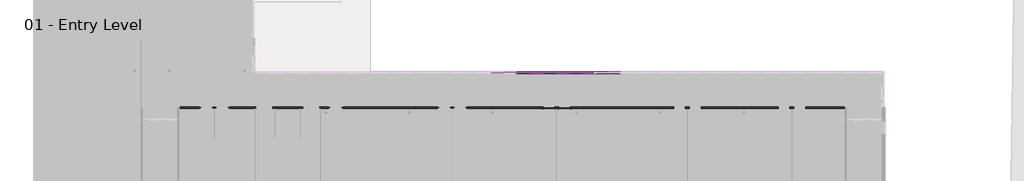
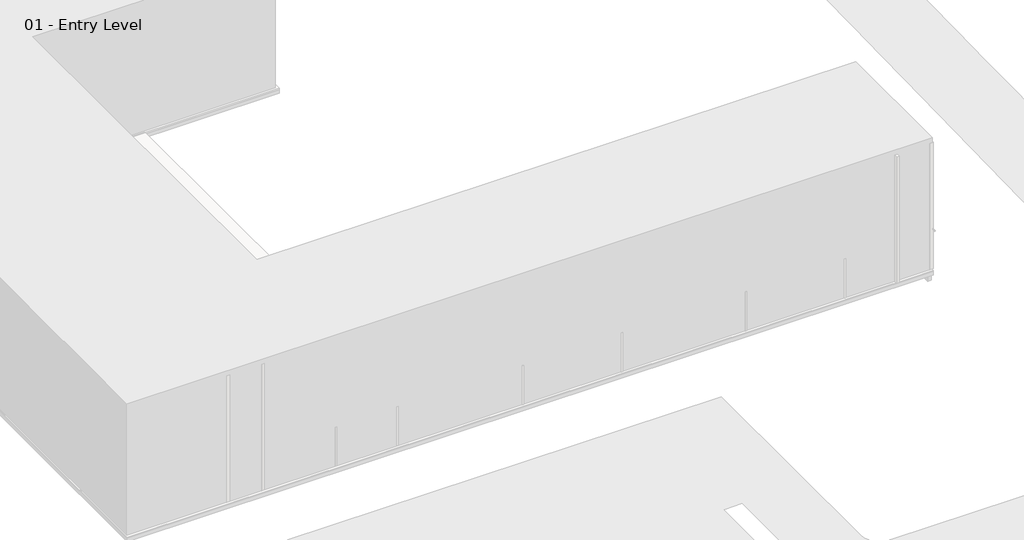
# One storey, part 19 of 35: 72 members, 36 plates, 2 doors, 1 wall.
"""IFC4 building model written with IfcOpenShell, lengths in millimetres."""

from ifc_helpers import new_model, si_unit, origin, place, context, project, spatial, faceted_brep, transform, mapped, element, save
from components import door_305aa2a5, door_e5f9f3c4, member_2b49869a, member_391b434c, member_9e90ae50, system_panel_glazed_1b9d6098, system_panel_glazed_70da479d

model = new_model("IFC4")

# Units and contexts
model_context = context("Model", 3, world=origin())
ifc_project = project(units=[si_unit("LENGTHUNIT", "METRE", prefix="MILLI")], contexts=[model_context])

# Site, building, storey
site = spatial("IfcSite", under=ifc_project)
building = spatial("IfcBuilding", under=site)
storey = spatial("IfcBuildingStorey", under=building, Name="01 - Entry Level", Elevation=0.0)

# Doors
placement = place(None, origin())
door_shape = door_305aa2a5(model_context)
element("IfcDoor", 1, ObjectType="Single-Flush : 36\" x 84\"", at=placement, inside=storey, context=model_context, shape_type="MappedRepresentation", body=[
    mapped(door_shape, transform((40145.6207476, 8277.15, 0.0), x_axis=(1.0, 0.0, 0.0), y_axis=(0.0, 1.0, 0.0), z_axis=(0.0, 0.0, 1.0))),
])
door_2_shape = door_e5f9f3c4(model_context)
element("IfcDoor", 2, ObjectType="Single-Flush : 36\" x 84\"", at=placement, inside=storey, context=model_context, shape_type="MappedRepresentation", body=[
    mapped(door_2_shape, transform((41364.8207476, 8277.15, 0.0), x_axis=(-1.0, 0.0, 0.0), y_axis=(0.0, -1.0, 0.0), z_axis=(0.0, 0.0, 1.0))),
])

# Members
member_shape = member_2b49869a(model_context)
element("IfcMember", 3, ObjectType="Rectangular Mullion : 2.5\" x 5\" rectangular", at=placement, inside=storey, context=model_context, shape_type="MappedRepresentation", body=[
    mapped(member_shape, transform((41720.4207476, 11001.3, 9753.6), x_axis=(-1.0, 0.0, 0.0), y_axis=(0.0, 1.0, 0.0), z_axis=(0.0, 0.0, -1.0))),
])
element("IfcMember", 4, ObjectType="Rectangular Mullion : 2.5\" x 5\" rectangular", at=placement, inside=storey, context=model_context, shape_type="MappedRepresentation", body=[
    mapped(member_shape, transform((39688.4207476, 11001.3, 9753.6), x_axis=(-1.0, 0.0, 0.0), y_axis=(0.0, 1.0, 0.0), z_axis=(0.0, 0.0, -1.0))),
])
element("IfcMember", 5, ObjectType="Rectangular Mullion : 2.5\" x 5\" rectangular", at=placement, inside=storey, context=model_context, shape_type="MappedRepresentation", body=[
    mapped(member_shape, transform((37656.4207476, 11001.3, 9753.6), x_axis=(-1.0, 0.0, 0.0), y_axis=(0.0, 1.0, 0.0), z_axis=(0.0, 0.0, -1.0))),
])
member_2_shape = member_391b434c(model_context)
element("IfcMember", 6, ObjectType="Rectangular Mullion : 2.5\" x 5\" rectangular", at=placement, inside=storey, context=model_context, shape_type="MappedRepresentation", body=[
    mapped(member_2_shape, transform((43784.1707476, 11001.3, 10972.8), x_axis=(0.0, 0.0, 1.0), y_axis=(0.0, 1.0, 0.0), z_axis=(-1.0, 0.0, 0.0))),
])
element("IfcMember", 7, ObjectType="Rectangular Mullion : 2.5\" x 5\" rectangular", at=placement, inside=storey, context=model_context, shape_type="MappedRepresentation", body=[
    mapped(member_2_shape, transform((41752.1707476, 11001.3, 10972.8), x_axis=(0.0, 0.0, 1.0), y_axis=(0.0, 1.0, 0.0), z_axis=(-1.0, 0.0, 0.0))),
])
element("IfcMember", 8, ObjectType="Rectangular Mullion : 2.5\" x 5\" rectangular", at=placement, inside=storey, context=model_context, shape_type="MappedRepresentation", body=[
    mapped(member_2_shape, transform((39720.1707476, 11001.3, 10972.8), x_axis=(0.0, 0.0, 1.0), y_axis=(0.0, 1.0, 0.0), z_axis=(-1.0, 0.0, 0.0))),
])
element("IfcMember", 9, ObjectType="Rectangular Mullion : 2.5\" x 5\" rectangular", at=placement, inside=storey, context=model_context, shape_type="MappedRepresentation", body=[
    mapped(member_2_shape, transform((37688.1707476, 11001.3, 10972.8), x_axis=(0.0, 0.0, 1.0), y_axis=(0.0, 1.0, 0.0), z_axis=(-1.0, 0.0, 0.0))),
])
element("IfcMember", 10, ObjectType="Rectangular Mullion : 2.5\" x 5\" rectangular", at=placement, inside=storey, context=model_context, shape_type="MappedRepresentation", body=[
    mapped(member_2_shape, transform((43720.6707476, 11001.3, 0.0), x_axis=(0.0, 0.0, -1.0), y_axis=(0.0, 1.0, 0.0), z_axis=(1.0, 0.0, 0.0))),
])
element("IfcMember", 11, ObjectType="Rectangular Mullion : 2.5\" x 5\" rectangular", at=placement, inside=storey, context=model_context, shape_type="MappedRepresentation", body=[
    mapped(member_2_shape, transform((41688.6707476, 11001.3, 0.0), x_axis=(0.0, 0.0, -1.0), y_axis=(0.0, 1.0, 0.0), z_axis=(1.0, 0.0, 0.0))),
])
element("IfcMember", 12, ObjectType="Rectangular Mullion : 2.5\" x 5\" rectangular", at=placement, inside=storey, context=model_context, shape_type="MappedRepresentation", body=[
    mapped(member_2_shape, transform((39656.6707476, 11001.3, 0.0), x_axis=(0.0, 0.0, -1.0), y_axis=(0.0, 1.0, 0.0), z_axis=(1.0, 0.0, 0.0))),
])
element("IfcMember", 13, ObjectType="Rectangular Mullion : 2.5\" x 5\" rectangular", at=placement, inside=storey, context=model_context, shape_type="MappedRepresentation", body=[
    mapped(member_2_shape, transform((37624.6707476, 11001.3, 0.0), x_axis=(0.0, 0.0, -1.0), y_axis=(0.0, 1.0, 0.0), z_axis=(1.0, 0.0, 0.0))),
])
member_3_shape = member_9e90ae50(model_context)
element("IfcMember", 14, ObjectType="Rectangular Mullion : 2.5\" x 5\" rectangular", at=placement, inside=storey, context=model_context, shape_type="MappedRepresentation", body=[
    mapped(member_3_shape, transform((43784.1707476, 11001.3, 1219.2), x_axis=(0.0, 0.0, 1.0), y_axis=(0.0, 1.0, 0.0), z_axis=(-1.0, 0.0, 0.0))),
])
element("IfcMember", 15, ObjectType="Rectangular Mullion : 2.5\" x 5\" rectangular", at=placement, inside=storey, context=model_context, shape_type="MappedRepresentation", body=[
    mapped(member_3_shape, transform((41752.1707476, 11001.3, 1219.2), x_axis=(0.0, 0.0, 1.0), y_axis=(0.0, 1.0, 0.0), z_axis=(-1.0, 0.0, 0.0))),
])
element("IfcMember", 16, ObjectType="Rectangular Mullion : 2.5\" x 5\" rectangular", at=placement, inside=storey, context=model_context, shape_type="MappedRepresentation", body=[
    mapped(member_3_shape, transform((39720.1707476, 11001.3, 1219.2), x_axis=(0.0, 0.0, 1.0), y_axis=(0.0, 1.0, 0.0), z_axis=(-1.0, 0.0, 0.0))),
])
element("IfcMember", 17, ObjectType="Rectangular Mullion : 2.5\" x 5\" rectangular", at=placement, inside=storey, context=model_context, shape_type="MappedRepresentation", body=[
    mapped(member_3_shape, transform((37688.1707476, 11001.3, 1219.2), x_axis=(0.0, 0.0, 1.0), y_axis=(0.0, 1.0, 0.0), z_axis=(-1.0, 0.0, 0.0))),
])
element("IfcMember", 18, ObjectType="Rectangular Mullion : 2.5\" x 5\" rectangular", at=placement, inside=storey, context=model_context, shape_type="MappedRepresentation", body=[
    mapped(member_3_shape, transform((43784.1707476, 11001.3, 2438.4), x_axis=(0.0, 0.0, 1.0), y_axis=(0.0, 1.0, 0.0), z_axis=(-1.0, 0.0, 0.0))),
])
element("IfcMember", 19, ObjectType="Rectangular Mullion : 2.5\" x 5\" rectangular", at=placement, inside=storey, context=model_context, shape_type="MappedRepresentation", body=[
    mapped(member_3_shape, transform((41752.1707476, 11001.3, 2438.4), x_axis=(0.0, 0.0, 1.0), y_axis=(0.0, 1.0, 0.0), z_axis=(-1.0, 0.0, 0.0))),
])
element("IfcMember", 20, ObjectType="Rectangular Mullion : 2.5\" x 5\" rectangular", at=placement, inside=storey, context=model_context, shape_type="MappedRepresentation", body=[
    mapped(member_3_shape, transform((39720.1707476, 11001.3, 2438.4), x_axis=(0.0, 0.0, 1.0), y_axis=(0.0, 1.0, 0.0), z_axis=(-1.0, 0.0, 0.0))),
])
element("IfcMember", 21, ObjectType="Rectangular Mullion : 2.5\" x 5\" rectangular", at=placement, inside=storey, context=model_context, shape_type="MappedRepresentation", body=[
    mapped(member_3_shape, transform((37688.1707476, 11001.3, 2438.4), x_axis=(0.0, 0.0, 1.0), y_axis=(0.0, 1.0, 0.0), z_axis=(-1.0, 0.0, 0.0))),
])
element("IfcMember", 22, ObjectType="Rectangular Mullion : 2.5\" x 5\" rectangular", at=placement, inside=storey, context=model_context, shape_type="MappedRepresentation", body=[
    mapped(member_3_shape, transform((43784.1707476, 11001.3, 3657.6), x_axis=(0.0, 0.0, 1.0), y_axis=(0.0, 1.0, 0.0), z_axis=(-1.0, 0.0, 0.0))),
])
element("IfcMember", 23, ObjectType="Rectangular Mullion : 2.5\" x 5\" rectangular", at=placement, inside=storey, context=model_context, shape_type="MappedRepresentation", body=[
    mapped(member_3_shape, transform((41752.1707476, 11001.3, 3657.6), x_axis=(0.0, 0.0, 1.0), y_axis=(0.0, 1.0, 0.0), z_axis=(-1.0, 0.0, 0.0))),
])
element("IfcMember", 24, ObjectType="Rectangular Mullion : 2.5\" x 5\" rectangular", at=placement, inside=storey, context=model_context, shape_type="MappedRepresentation", body=[
    mapped(member_3_shape, transform((39720.1707476, 11001.3, 3657.6), x_axis=(0.0, 0.0, 1.0), y_axis=(0.0, 1.0, 0.0), z_axis=(-1.0, 0.0, 0.0))),
])
element("IfcMember", 25, ObjectType="Rectangular Mullion : 2.5\" x 5\" rectangular", at=placement, inside=storey, context=model_context, shape_type="MappedRepresentation", body=[
    mapped(member_3_shape, transform((37688.1707476, 11001.3, 3657.6), x_axis=(0.0, 0.0, 1.0), y_axis=(0.0, 1.0, 0.0), z_axis=(-1.0, 0.0, 0.0))),
])
element("IfcMember", 26, ObjectType="Rectangular Mullion : 2.5\" x 5\" rectangular", at=placement, inside=storey, context=model_context, shape_type="MappedRepresentation", body=[
    mapped(member_3_shape, transform((43784.1707476, 11001.3, 4876.8), x_axis=(0.0, 0.0, 1.0), y_axis=(0.0, 1.0, 0.0), z_axis=(-1.0, 0.0, 0.0))),
])
element("IfcMember", 27, ObjectType="Rectangular Mullion : 2.5\" x 5\" rectangular", at=placement, inside=storey, context=model_context, shape_type="MappedRepresentation", body=[
    mapped(member_3_shape, transform((41752.1707476, 11001.3, 4876.8), x_axis=(0.0, 0.0, 1.0), y_axis=(0.0, 1.0, 0.0), z_axis=(-1.0, 0.0, 0.0))),
])
element("IfcMember", 28, ObjectType="Rectangular Mullion : 2.5\" x 5\" rectangular", at=placement, inside=storey, context=model_context, shape_type="MappedRepresentation", body=[
    mapped(member_3_shape, transform((39720.1707476, 11001.3, 4876.8), x_axis=(0.0, 0.0, 1.0), y_axis=(0.0, 1.0, 0.0), z_axis=(-1.0, 0.0, 0.0))),
])
element("IfcMember", 29, ObjectType="Rectangular Mullion : 2.5\" x 5\" rectangular", at=placement, inside=storey, context=model_context, shape_type="MappedRepresentation", body=[
    mapped(member_3_shape, transform((37688.1707476, 11001.3, 4876.8), x_axis=(0.0, 0.0, 1.0), y_axis=(0.0, 1.0, 0.0), z_axis=(-1.0, 0.0, 0.0))),
])
element("IfcMember", 30, ObjectType="Rectangular Mullion : 2.5\" x 5\" rectangular", at=placement, inside=storey, context=model_context, shape_type="MappedRepresentation", body=[
    mapped(member_3_shape, transform((43784.1707476, 11001.3, 6096.0), x_axis=(0.0, 0.0, 1.0), y_axis=(0.0, 1.0, 0.0), z_axis=(-1.0, 0.0, 0.0))),
])
element("IfcMember", 31, ObjectType="Rectangular Mullion : 2.5\" x 5\" rectangular", at=placement, inside=storey, context=model_context, shape_type="MappedRepresentation", body=[
    mapped(member_3_shape, transform((41752.1707476, 11001.3, 6096.0), x_axis=(0.0, 0.0, 1.0), y_axis=(0.0, 1.0, 0.0), z_axis=(-1.0, 0.0, 0.0))),
])
element("IfcMember", 32, ObjectType="Rectangular Mullion : 2.5\" x 5\" rectangular", at=placement, inside=storey, context=model_context, shape_type="MappedRepresentation", body=[
    mapped(member_3_shape, transform((39720.1707476, 11001.3, 6096.0), x_axis=(0.0, 0.0, 1.0), y_axis=(0.0, 1.0, 0.0), z_axis=(-1.0, 0.0, 0.0))),
])
element("IfcMember", 33, ObjectType="Rectangular Mullion : 2.5\" x 5\" rectangular", at=placement, inside=storey, context=model_context, shape_type="MappedRepresentation", body=[
    mapped(member_3_shape, transform((37688.1707476, 11001.3, 6096.0), x_axis=(0.0, 0.0, 1.0), y_axis=(0.0, 1.0, 0.0), z_axis=(-1.0, 0.0, 0.0))),
])
element("IfcMember", 34, ObjectType="Rectangular Mullion : 2.5\" x 5\" rectangular", at=placement, inside=storey, context=model_context, shape_type="MappedRepresentation", body=[
    mapped(member_3_shape, transform((43784.1707476, 11001.3, 7315.2), x_axis=(0.0, 0.0, 1.0), y_axis=(0.0, 1.0, 0.0), z_axis=(-1.0, 0.0, 0.0))),
])
element("IfcMember", 35, ObjectType="Rectangular Mullion : 2.5\" x 5\" rectangular", at=placement, inside=storey, context=model_context, shape_type="MappedRepresentation", body=[
    mapped(member_3_shape, transform((41752.1707476, 11001.3, 7315.2), x_axis=(0.0, 0.0, 1.0), y_axis=(0.0, 1.0, 0.0), z_axis=(-1.0, 0.0, 0.0))),
])
element("IfcMember", 36, ObjectType="Rectangular Mullion : 2.5\" x 5\" rectangular", at=placement, inside=storey, context=model_context, shape_type="MappedRepresentation", body=[
    mapped(member_3_shape, transform((39720.1707476, 11001.3, 7315.2), x_axis=(0.0, 0.0, 1.0), y_axis=(0.0, 1.0, 0.0), z_axis=(-1.0, 0.0, 0.0))),
])
element("IfcMember", 37, ObjectType="Rectangular Mullion : 2.5\" x 5\" rectangular", at=placement, inside=storey, context=model_context, shape_type="MappedRepresentation", body=[
    mapped(member_3_shape, transform((37688.1707476, 11001.3, 7315.2), x_axis=(0.0, 0.0, 1.0), y_axis=(0.0, 1.0, 0.0), z_axis=(-1.0, 0.0, 0.0))),
])
element("IfcMember", 38, ObjectType="Rectangular Mullion : 2.5\" x 5\" rectangular", at=placement, inside=storey, context=model_context, shape_type="MappedRepresentation", body=[
    mapped(member_3_shape, transform((43784.1707476, 11001.3, 8534.4), x_axis=(0.0, 0.0, 1.0), y_axis=(0.0, 1.0, 0.0), z_axis=(-1.0, 0.0, 0.0))),
])
element("IfcMember", 39, ObjectType="Rectangular Mullion : 2.5\" x 5\" rectangular", at=placement, inside=storey, context=model_context, shape_type="MappedRepresentation", body=[
    mapped(member_3_shape, transform((41752.1707476, 11001.3, 8534.4), x_axis=(0.0, 0.0, 1.0), y_axis=(0.0, 1.0, 0.0), z_axis=(-1.0, 0.0, 0.0))),
])
element("IfcMember", 40, ObjectType="Rectangular Mullion : 2.5\" x 5\" rectangular", at=placement, inside=storey, context=model_context, shape_type="MappedRepresentation", body=[
    mapped(member_3_shape, transform((39720.1707476, 11001.3, 8534.4), x_axis=(0.0, 0.0, 1.0), y_axis=(0.0, 1.0, 0.0), z_axis=(-1.0, 0.0, 0.0))),
])
element("IfcMember", 41, ObjectType="Rectangular Mullion : 2.5\" x 5\" rectangular", at=placement, inside=storey, context=model_context, shape_type="MappedRepresentation", body=[
    mapped(member_3_shape, transform((37688.1707476, 11001.3, 8534.4), x_axis=(0.0, 0.0, 1.0), y_axis=(0.0, 1.0, 0.0), z_axis=(-1.0, 0.0, 0.0))),
])
element("IfcMember", 42, ObjectType="Rectangular Mullion : 2.5\" x 5\" rectangular", at=placement, inside=storey, context=model_context, shape_type="MappedRepresentation", body=[
    mapped(member_3_shape, transform((43784.1707476, 11001.3, 9753.6), x_axis=(0.0, 0.0, 1.0), y_axis=(0.0, 1.0, 0.0), z_axis=(-1.0, 0.0, 0.0))),
])
element("IfcMember", 43, ObjectType="Rectangular Mullion : 2.5\" x 5\" rectangular", at=placement, inside=storey, context=model_context, shape_type="MappedRepresentation", body=[
    mapped(member_3_shape, transform((41752.1707476, 11001.3, 9753.6), x_axis=(0.0, 0.0, 1.0), y_axis=(0.0, 1.0, 0.0), z_axis=(-1.0, 0.0, 0.0))),
])
element("IfcMember", 44, ObjectType="Rectangular Mullion : 2.5\" x 5\" rectangular", at=placement, inside=storey, context=model_context, shape_type="MappedRepresentation", body=[
    mapped(member_3_shape, transform((39720.1707476, 11001.3, 9753.6), x_axis=(0.0, 0.0, 1.0), y_axis=(0.0, 1.0, 0.0), z_axis=(-1.0, 0.0, 0.0))),
])
element("IfcMember", 45, ObjectType="Rectangular Mullion : 2.5\" x 5\" rectangular", at=placement, inside=storey, context=model_context, shape_type="MappedRepresentation", body=[
    mapped(member_3_shape, transform((37688.1707476, 11001.3, 9753.6), x_axis=(0.0, 0.0, 1.0), y_axis=(0.0, 1.0, 0.0), z_axis=(-1.0, 0.0, 0.0))),
])
element("IfcMember", 46, ObjectType="Rectangular Mullion : 2.5\" x 5\" rectangular", at=placement, inside=storey, context=model_context, shape_type="MappedRepresentation", body=[
    mapped(member_shape, transform((43752.4207476, 11001.3, 0.0), x_axis=(-1.0, 0.0, 0.0), y_axis=(0.0, 1.0, 0.0), z_axis=(0.0, 0.0, -1.0))),
])
element("IfcMember", 47, ObjectType="Rectangular Mullion : 2.5\" x 5\" rectangular", at=placement, inside=storey, context=model_context, shape_type="MappedRepresentation", body=[
    mapped(member_shape, transform((41720.4207476, 11001.3, 0.0), x_axis=(-1.0, 0.0, 0.0), y_axis=(0.0, 1.0, 0.0), z_axis=(0.0, 0.0, -1.0))),
])
element("IfcMember", 48, ObjectType="Rectangular Mullion : 2.5\" x 5\" rectangular", at=placement, inside=storey, context=model_context, shape_type="MappedRepresentation", body=[
    mapped(member_shape, transform((39688.4207476, 11001.3, 0.0), x_axis=(-1.0, 0.0, 0.0), y_axis=(0.0, 1.0, 0.0), z_axis=(0.0, 0.0, -1.0))),
])
element("IfcMember", 49, ObjectType="Rectangular Mullion : 2.5\" x 5\" rectangular", at=placement, inside=storey, context=model_context, shape_type="MappedRepresentation", body=[
    mapped(member_shape, transform((37656.4207476, 11001.3, 0.0), x_axis=(-1.0, 0.0, 0.0), y_axis=(0.0, 1.0, 0.0), z_axis=(0.0, 0.0, -1.0))),
])
element("IfcMember", 50, ObjectType="Rectangular Mullion : 2.5\" x 5\" rectangular", at=placement, inside=storey, context=model_context, shape_type="MappedRepresentation", body=[
    mapped(member_shape, transform((43752.4207476, 11001.3, 1219.2), x_axis=(-1.0, 0.0, 0.0), y_axis=(0.0, 1.0, 0.0), z_axis=(0.0, 0.0, -1.0))),
])
element("IfcMember", 51, ObjectType="Rectangular Mullion : 2.5\" x 5\" rectangular", at=placement, inside=storey, context=model_context, shape_type="MappedRepresentation", body=[
    mapped(member_shape, transform((41720.4207476, 11001.3, 1219.2), x_axis=(-1.0, 0.0, 0.0), y_axis=(0.0, 1.0, 0.0), z_axis=(0.0, 0.0, -1.0))),
])
element("IfcMember", 52, ObjectType="Rectangular Mullion : 2.5\" x 5\" rectangular", at=placement, inside=storey, context=model_context, shape_type="MappedRepresentation", body=[
    mapped(member_shape, transform((39688.4207476, 11001.3, 1219.2), x_axis=(-1.0, 0.0, 0.0), y_axis=(0.0, 1.0, 0.0), z_axis=(0.0, 0.0, -1.0))),
])
element("IfcMember", 53, ObjectType="Rectangular Mullion : 2.5\" x 5\" rectangular", at=placement, inside=storey, context=model_context, shape_type="MappedRepresentation", body=[
    mapped(member_shape, transform((37656.4207476, 11001.3, 1219.2), x_axis=(-1.0, 0.0, 0.0), y_axis=(0.0, 1.0, 0.0), z_axis=(0.0, 0.0, -1.0))),
])
element("IfcMember", 54, ObjectType="Rectangular Mullion : 2.5\" x 5\" rectangular", at=placement, inside=storey, context=model_context, shape_type="MappedRepresentation", body=[
    mapped(member_shape, transform((43752.4207476, 11001.3, 2438.4), x_axis=(-1.0, 0.0, 0.0), y_axis=(0.0, 1.0, 0.0), z_axis=(0.0, 0.0, -1.0))),
])
element("IfcMember", 55, ObjectType="Rectangular Mullion : 2.5\" x 5\" rectangular", at=placement, inside=storey, context=model_context, shape_type="MappedRepresentation", body=[
    mapped(member_shape, transform((41720.4207476, 11001.3, 2438.4), x_axis=(-1.0, 0.0, 0.0), y_axis=(0.0, 1.0, 0.0), z_axis=(0.0, 0.0, -1.0))),
])
element("IfcMember", 56, ObjectType="Rectangular Mullion : 2.5\" x 5\" rectangular", at=placement, inside=storey, context=model_context, shape_type="MappedRepresentation", body=[
    mapped(member_shape, transform((39688.4207476, 11001.3, 2438.4), x_axis=(-1.0, 0.0, 0.0), y_axis=(0.0, 1.0, 0.0), z_axis=(0.0, 0.0, -1.0))),
])
element("IfcMember", 57, ObjectType="Rectangular Mullion : 2.5\" x 5\" rectangular", at=placement, inside=storey, context=model_context, shape_type="MappedRepresentation", body=[
    mapped(member_shape, transform((37656.4207476, 11001.3, 2438.4), x_axis=(-1.0, 0.0, 0.0), y_axis=(0.0, 1.0, 0.0), z_axis=(0.0, 0.0, -1.0))),
])
element("IfcMember", 58, ObjectType="Rectangular Mullion : 2.5\" x 5\" rectangular", at=placement, inside=storey, context=model_context, shape_type="MappedRepresentation", body=[
    mapped(member_shape, transform((43752.4207476, 11001.3, 3657.6), x_axis=(-1.0, 0.0, 0.0), y_axis=(0.0, 1.0, 0.0), z_axis=(0.0, 0.0, -1.0))),
])
element("IfcMember", 59, ObjectType="Rectangular Mullion : 2.5\" x 5\" rectangular", at=placement, inside=storey, context=model_context, shape_type="MappedRepresentation", body=[
    mapped(member_shape, transform((41720.4207476, 11001.3, 3657.6), x_axis=(-1.0, 0.0, 0.0), y_axis=(0.0, 1.0, 0.0), z_axis=(0.0, 0.0, -1.0))),
])
element("IfcMember", 60, ObjectType="Rectangular Mullion : 2.5\" x 5\" rectangular", at=placement, inside=storey, context=model_context, shape_type="MappedRepresentation", body=[
    mapped(member_shape, transform((39688.4207476, 11001.3, 3657.6), x_axis=(-1.0, 0.0, 0.0), y_axis=(0.0, 1.0, 0.0), z_axis=(0.0, 0.0, -1.0))),
])
element("IfcMember", 61, ObjectType="Rectangular Mullion : 2.5\" x 5\" rectangular", at=placement, inside=storey, context=model_context, shape_type="MappedRepresentation", body=[
    mapped(member_shape, transform((37656.4207476, 11001.3, 3657.6), x_axis=(-1.0, 0.0, 0.0), y_axis=(0.0, 1.0, 0.0), z_axis=(0.0, 0.0, -1.0))),
])
element("IfcMember", 62, ObjectType="Rectangular Mullion : 2.5\" x 5\" rectangular", at=placement, inside=storey, context=model_context, shape_type="MappedRepresentation", body=[
    mapped(member_shape, transform((43752.4207476, 11001.3, 4876.8), x_axis=(-1.0, 0.0, 0.0), y_axis=(0.0, 1.0, 0.0), z_axis=(0.0, 0.0, -1.0))),
])
element("IfcMember", 63, ObjectType="Rectangular Mullion : 2.5\" x 5\" rectangular", at=placement, inside=storey, context=model_context, shape_type="MappedRepresentation", body=[
    mapped(member_shape, transform((41720.4207476, 11001.3, 4876.8), x_axis=(-1.0, 0.0, 0.0), y_axis=(0.0, 1.0, 0.0), z_axis=(0.0, 0.0, -1.0))),
])
element("IfcMember", 64, ObjectType="Rectangular Mullion : 2.5\" x 5\" rectangular", at=placement, inside=storey, context=model_context, shape_type="MappedRepresentation", body=[
    mapped(member_shape, transform((39688.4207476, 11001.3, 4876.8), x_axis=(-1.0, 0.0, 0.0), y_axis=(0.0, 1.0, 0.0), z_axis=(0.0, 0.0, -1.0))),
])
element("IfcMember", 65, ObjectType="Rectangular Mullion : 2.5\" x 5\" rectangular", at=placement, inside=storey, context=model_context, shape_type="MappedRepresentation", body=[
    mapped(member_shape, transform((37656.4207476, 11001.3, 4876.8), x_axis=(-1.0, 0.0, 0.0), y_axis=(0.0, 1.0, 0.0), z_axis=(0.0, 0.0, -1.0))),
])
element("IfcMember", 66, ObjectType="Rectangular Mullion : 2.5\" x 5\" rectangular", at=placement, inside=storey, context=model_context, shape_type="MappedRepresentation", body=[
    mapped(member_shape, transform((41720.4207476, 11001.3, 6096.0), x_axis=(-1.0, 0.0, 0.0), y_axis=(0.0, 1.0, 0.0), z_axis=(0.0, 0.0, -1.0))),
])
element("IfcMember", 67, ObjectType="Rectangular Mullion : 2.5\" x 5\" rectangular", at=placement, inside=storey, context=model_context, shape_type="MappedRepresentation", body=[
    mapped(member_shape, transform((39688.4207476, 11001.3, 6096.0), x_axis=(-1.0, 0.0, 0.0), y_axis=(0.0, 1.0, 0.0), z_axis=(0.0, 0.0, -1.0))),
])
element("IfcMember", 68, ObjectType="Rectangular Mullion : 2.5\" x 5\" rectangular", at=placement, inside=storey, context=model_context, shape_type="MappedRepresentation", body=[
    mapped(member_shape, transform((37656.4207476, 11001.3, 6096.0), x_axis=(-1.0, 0.0, 0.0), y_axis=(0.0, 1.0, 0.0), z_axis=(0.0, 0.0, -1.0))),
])
element("IfcMember", 69, ObjectType="Rectangular Mullion : 2.5\" x 5\" rectangular", at=placement, inside=storey, context=model_context, shape_type="MappedRepresentation", body=[
    mapped(member_shape, transform((41720.4207476, 11001.3, 7315.2), x_axis=(-1.0, 0.0, 0.0), y_axis=(0.0, 1.0, 0.0), z_axis=(0.0, 0.0, -1.0))),
])
element("IfcMember", 70, ObjectType="Rectangular Mullion : 2.5\" x 5\" rectangular", at=placement, inside=storey, context=model_context, shape_type="MappedRepresentation", body=[
    mapped(member_shape, transform((39688.4207476, 11001.3, 7315.2), x_axis=(-1.0, 0.0, 0.0), y_axis=(0.0, 1.0, 0.0), z_axis=(0.0, 0.0, -1.0))),
])
element("IfcMember", 71, ObjectType="Rectangular Mullion : 2.5\" x 5\" rectangular", at=placement, inside=storey, context=model_context, shape_type="MappedRepresentation", body=[
    mapped(member_shape, transform((37656.4207476, 11001.3, 7315.2), x_axis=(-1.0, 0.0, 0.0), y_axis=(0.0, 1.0, 0.0), z_axis=(0.0, 0.0, -1.0))),
])
element("IfcMember", 72, ObjectType="Rectangular Mullion : 2.5\" x 5\" rectangular", at=placement, inside=storey, context=model_context, shape_type="MappedRepresentation", body=[
    mapped(member_shape, transform((41720.4207476, 11001.3, 8534.4), x_axis=(-1.0, 0.0, 0.0), y_axis=(0.0, 1.0, 0.0), z_axis=(0.0, 0.0, -1.0))),
])
element("IfcMember", 73, ObjectType="Rectangular Mullion : 2.5\" x 5\" rectangular", at=placement, inside=storey, context=model_context, shape_type="MappedRepresentation", body=[
    mapped(member_shape, transform((39688.4207476, 11001.3, 8534.4), x_axis=(-1.0, 0.0, 0.0), y_axis=(0.0, 1.0, 0.0), z_axis=(0.0, 0.0, -1.0))),
])
element("IfcMember", 74, ObjectType="Rectangular Mullion : 2.5\" x 5\" rectangular", at=placement, inside=storey, context=model_context, shape_type="MappedRepresentation", body=[
    mapped(member_shape, transform((37656.4207476, 11001.3, 8534.4), x_axis=(-1.0, 0.0, 0.0), y_axis=(0.0, 1.0, 0.0), z_axis=(0.0, 0.0, -1.0))),
])

# Plates
system_panel_glazed_shape = system_panel_glazed_1b9d6098(model_context)
element("IfcPlate", 75, ObjectType="System Panel : Glazed", at=placement, inside=storey, context=model_context, shape_type="MappedRepresentation", body=[
    mapped(system_panel_glazed_shape, transform((42736.4207476, 11001.3, 63.5), x_axis=(-1.0, 0.0, 0.0), y_axis=(0.0, -1.0, 0.0), z_axis=(0.0, 0.0, 1.0))),
])
element("IfcPlate", 76, ObjectType="System Panel : Glazed", at=placement, inside=storey, context=model_context, shape_type="MappedRepresentation", body=[
    mapped(system_panel_glazed_shape, transform((40704.4207476, 11001.3, 63.5), x_axis=(-1.0, 0.0, 0.0), y_axis=(0.0, -1.0, 0.0), z_axis=(0.0, 0.0, 1.0))),
])
element("IfcPlate", 77, ObjectType="System Panel : Glazed", at=placement, inside=storey, context=model_context, shape_type="MappedRepresentation", body=[
    mapped(system_panel_glazed_shape, transform((38672.4207476, 11001.3, 63.5), x_axis=(-1.0, 0.0, 0.0), y_axis=(0.0, -1.0, 0.0), z_axis=(0.0, 0.0, 1.0))),
])
element("IfcPlate", 78, ObjectType="System Panel : Glazed", at=placement, inside=storey, context=model_context, shape_type="MappedRepresentation", body=[
    mapped(system_panel_glazed_shape, transform((36640.4207476, 11001.3, 63.5), x_axis=(-1.0, 0.0, 0.0), y_axis=(0.0, -1.0, 0.0), z_axis=(0.0, 0.0, 1.0))),
])
element("IfcPlate", 79, ObjectType="System Panel : Glazed", at=placement, inside=storey, context=model_context, shape_type="MappedRepresentation", body=[
    mapped(system_panel_glazed_shape, transform((42736.4207476, 11001.3, 9785.35), x_axis=(-1.0, 0.0, 0.0), y_axis=(0.0, -1.0, 0.0), z_axis=(0.0, 0.0, 1.0))),
])
element("IfcPlate", 80, ObjectType="System Panel : Glazed", at=placement, inside=storey, context=model_context, shape_type="MappedRepresentation", body=[
    mapped(system_panel_glazed_shape, transform((40704.4207476, 11001.3, 9785.35), x_axis=(-1.0, 0.0, 0.0), y_axis=(0.0, -1.0, 0.0), z_axis=(0.0, 0.0, 1.0))),
])
element("IfcPlate", 81, ObjectType="System Panel : Glazed", at=placement, inside=storey, context=model_context, shape_type="MappedRepresentation", body=[
    mapped(system_panel_glazed_shape, transform((38672.4207476, 11001.3, 9785.35), x_axis=(-1.0, 0.0, 0.0), y_axis=(0.0, -1.0, 0.0), z_axis=(0.0, 0.0, 1.0))),
])
element("IfcPlate", 82, ObjectType="System Panel : Glazed", at=placement, inside=storey, context=model_context, shape_type="MappedRepresentation", body=[
    mapped(system_panel_glazed_shape, transform((36640.4207476, 11001.3, 9785.35), x_axis=(-1.0, 0.0, 0.0), y_axis=(0.0, -1.0, 0.0), z_axis=(0.0, 0.0, 1.0))),
])
system_panel_glazed_2_shape = system_panel_glazed_70da479d(model_context)
element("IfcPlate", 83, ObjectType="System Panel : Glazed", at=placement, inside=storey, context=model_context, shape_type="MappedRepresentation", body=[
    mapped(system_panel_glazed_2_shape, transform((42736.4207476, 11001.3, 1250.95), x_axis=(-1.0, 0.0, 0.0), y_axis=(0.0, -1.0, 0.0), z_axis=(0.0, 0.0, 1.0))),
])
element("IfcPlate", 84, ObjectType="System Panel : Glazed", at=placement, inside=storey, context=model_context, shape_type="MappedRepresentation", body=[
    mapped(system_panel_glazed_2_shape, transform((40704.4207476, 11001.3, 1250.95), x_axis=(-1.0, 0.0, 0.0), y_axis=(0.0, -1.0, 0.0), z_axis=(0.0, 0.0, 1.0))),
])
element("IfcPlate", 85, ObjectType="System Panel : Glazed", at=placement, inside=storey, context=model_context, shape_type="MappedRepresentation", body=[
    mapped(system_panel_glazed_2_shape, transform((38672.4207476, 11001.3, 1250.95), x_axis=(-1.0, 0.0, 0.0), y_axis=(0.0, -1.0, 0.0), z_axis=(0.0, 0.0, 1.0))),
])
element("IfcPlate", 86, ObjectType="System Panel : Glazed", at=placement, inside=storey, context=model_context, shape_type="MappedRepresentation", body=[
    mapped(system_panel_glazed_2_shape, transform((36640.4207476, 11001.3, 1250.95), x_axis=(-1.0, 0.0, 0.0), y_axis=(0.0, -1.0, 0.0), z_axis=(0.0, 0.0, 1.0))),
])
element("IfcPlate", 87, ObjectType="System Panel : Glazed", at=placement, inside=storey, context=model_context, shape_type="MappedRepresentation", body=[
    mapped(system_panel_glazed_2_shape, transform((42736.4207476, 11001.3, 2470.15), x_axis=(-1.0, 0.0, 0.0), y_axis=(0.0, -1.0, 0.0), z_axis=(0.0, 0.0, 1.0))),
])
element("IfcPlate", 88, ObjectType="System Panel : Glazed", at=placement, inside=storey, context=model_context, shape_type="MappedRepresentation", body=[
    mapped(system_panel_glazed_2_shape, transform((40704.4207476, 11001.3, 2470.15), x_axis=(-1.0, 0.0, 0.0), y_axis=(0.0, -1.0, 0.0), z_axis=(0.0, 0.0, 1.0))),
])
element("IfcPlate", 89, ObjectType="System Panel : Glazed", at=placement, inside=storey, context=model_context, shape_type="MappedRepresentation", body=[
    mapped(system_panel_glazed_2_shape, transform((38672.4207476, 11001.3, 2470.15), x_axis=(-1.0, 0.0, 0.0), y_axis=(0.0, -1.0, 0.0), z_axis=(0.0, 0.0, 1.0))),
])
element("IfcPlate", 90, ObjectType="System Panel : Glazed", at=placement, inside=storey, context=model_context, shape_type="MappedRepresentation", body=[
    mapped(system_panel_glazed_2_shape, transform((36640.4207476, 11001.3, 2470.15), x_axis=(-1.0, 0.0, 0.0), y_axis=(0.0, -1.0, 0.0), z_axis=(0.0, 0.0, 1.0))),
])
element("IfcPlate", 91, ObjectType="System Panel : Glazed", at=placement, inside=storey, context=model_context, shape_type="MappedRepresentation", body=[
    mapped(system_panel_glazed_2_shape, transform((42736.4207476, 11001.3, 3689.35), x_axis=(-1.0, 0.0, 0.0), y_axis=(0.0, -1.0, 0.0), z_axis=(0.0, 0.0, 1.0))),
])
element("IfcPlate", 92, ObjectType="System Panel : Glazed", at=placement, inside=storey, context=model_context, shape_type="MappedRepresentation", body=[
    mapped(system_panel_glazed_2_shape, transform((40704.4207476, 11001.3, 3689.35), x_axis=(-1.0, 0.0, 0.0), y_axis=(0.0, -1.0, 0.0), z_axis=(0.0, 0.0, 1.0))),
])
element("IfcPlate", 93, ObjectType="System Panel : Glazed", at=placement, inside=storey, context=model_context, shape_type="MappedRepresentation", body=[
    mapped(system_panel_glazed_2_shape, transform((38672.4207476, 11001.3, 3689.35), x_axis=(-1.0, 0.0, 0.0), y_axis=(0.0, -1.0, 0.0), z_axis=(0.0, 0.0, 1.0))),
])
element("IfcPlate", 94, ObjectType="System Panel : Glazed", at=placement, inside=storey, context=model_context, shape_type="MappedRepresentation", body=[
    mapped(system_panel_glazed_2_shape, transform((36640.4207476, 11001.3, 3689.35), x_axis=(-1.0, 0.0, 0.0), y_axis=(0.0, -1.0, 0.0), z_axis=(0.0, 0.0, 1.0))),
])
element("IfcPlate", 95, ObjectType="System Panel : Glazed", at=placement, inside=storey, context=model_context, shape_type="MappedRepresentation", body=[
    mapped(system_panel_glazed_2_shape, transform((42736.4207476, 11001.3, 4908.55), x_axis=(-1.0, 0.0, 0.0), y_axis=(0.0, -1.0, 0.0), z_axis=(0.0, 0.0, 1.0))),
])
element("IfcPlate", 96, ObjectType="System Panel : Glazed", at=placement, inside=storey, context=model_context, shape_type="MappedRepresentation", body=[
    mapped(system_panel_glazed_2_shape, transform((40704.4207476, 11001.3, 4908.55), x_axis=(-1.0, 0.0, 0.0), y_axis=(0.0, -1.0, 0.0), z_axis=(0.0, 0.0, 1.0))),
])
element("IfcPlate", 97, ObjectType="System Panel : Glazed", at=placement, inside=storey, context=model_context, shape_type="MappedRepresentation", body=[
    mapped(system_panel_glazed_2_shape, transform((38672.4207476, 11001.3, 4908.55), x_axis=(-1.0, 0.0, 0.0), y_axis=(0.0, -1.0, 0.0), z_axis=(0.0, 0.0, 1.0))),
])
element("IfcPlate", 98, ObjectType="System Panel : Glazed", at=placement, inside=storey, context=model_context, shape_type="MappedRepresentation", body=[
    mapped(system_panel_glazed_2_shape, transform((36640.4207476, 11001.3, 4908.55), x_axis=(-1.0, 0.0, 0.0), y_axis=(0.0, -1.0, 0.0), z_axis=(0.0, 0.0, 1.0))),
])
element("IfcPlate", 99, ObjectType="System Panel : Glazed", at=placement, inside=storey, context=model_context, shape_type="MappedRepresentation", body=[
    mapped(system_panel_glazed_2_shape, transform((42736.4207476, 11001.3, 6127.75), x_axis=(-1.0, 0.0, 0.0), y_axis=(0.0, -1.0, 0.0), z_axis=(0.0, 0.0, 1.0))),
])
element("IfcPlate", 100, ObjectType="System Panel : Glazed", at=placement, inside=storey, context=model_context, shape_type="MappedRepresentation", body=[
    mapped(system_panel_glazed_2_shape, transform((40704.4207476, 11001.3, 6127.75), x_axis=(-1.0, 0.0, 0.0), y_axis=(0.0, -1.0, 0.0), z_axis=(0.0, 0.0, 1.0))),
])
element("IfcPlate", 101, ObjectType="System Panel : Glazed", at=placement, inside=storey, context=model_context, shape_type="MappedRepresentation", body=[
    mapped(system_panel_glazed_2_shape, transform((38672.4207476, 11001.3, 6127.75), x_axis=(-1.0, 0.0, 0.0), y_axis=(0.0, -1.0, 0.0), z_axis=(0.0, 0.0, 1.0))),
])
element("IfcPlate", 102, ObjectType="System Panel : Glazed", at=placement, inside=storey, context=model_context, shape_type="MappedRepresentation", body=[
    mapped(system_panel_glazed_2_shape, transform((36640.4207476, 11001.3, 6127.75), x_axis=(-1.0, 0.0, 0.0), y_axis=(0.0, -1.0, 0.0), z_axis=(0.0, 0.0, 1.0))),
])
element("IfcPlate", 103, ObjectType="System Panel : Glazed", at=placement, inside=storey, context=model_context, shape_type="MappedRepresentation", body=[
    mapped(system_panel_glazed_2_shape, transform((42736.4207476, 11001.3, 7346.95), x_axis=(-1.0, 0.0, 0.0), y_axis=(0.0, -1.0, 0.0), z_axis=(0.0, 0.0, 1.0))),
])
element("IfcPlate", 104, ObjectType="System Panel : Glazed", at=placement, inside=storey, context=model_context, shape_type="MappedRepresentation", body=[
    mapped(system_panel_glazed_2_shape, transform((40704.4207476, 11001.3, 7346.95), x_axis=(-1.0, 0.0, 0.0), y_axis=(0.0, -1.0, 0.0), z_axis=(0.0, 0.0, 1.0))),
])
element("IfcPlate", 105, ObjectType="System Panel : Glazed", at=placement, inside=storey, context=model_context, shape_type="MappedRepresentation", body=[
    mapped(system_panel_glazed_2_shape, transform((38672.4207476, 11001.3, 7346.95), x_axis=(-1.0, 0.0, 0.0), y_axis=(0.0, -1.0, 0.0), z_axis=(0.0, 0.0, 1.0))),
])
element("IfcPlate", 106, ObjectType="System Panel : Glazed", at=placement, inside=storey, context=model_context, shape_type="MappedRepresentation", body=[
    mapped(system_panel_glazed_2_shape, transform((36640.4207476, 11001.3, 7346.95), x_axis=(-1.0, 0.0, 0.0), y_axis=(0.0, -1.0, 0.0), z_axis=(0.0, 0.0, 1.0))),
])
element("IfcPlate", 107, ObjectType="System Panel : Glazed", at=placement, inside=storey, context=model_context, shape_type="MappedRepresentation", body=[
    mapped(system_panel_glazed_2_shape, transform((42736.4207476, 11001.3, 8566.15), x_axis=(-1.0, 0.0, 0.0), y_axis=(0.0, -1.0, 0.0), z_axis=(0.0, 0.0, 1.0))),
])
element("IfcPlate", 108, ObjectType="System Panel : Glazed", at=placement, inside=storey, context=model_context, shape_type="MappedRepresentation", body=[
    mapped(system_panel_glazed_2_shape, transform((40704.4207476, 11001.3, 8566.15), x_axis=(-1.0, 0.0, 0.0), y_axis=(0.0, -1.0, 0.0), z_axis=(0.0, 0.0, 1.0))),
])
element("IfcPlate", 109, ObjectType="System Panel : Glazed", at=placement, inside=storey, context=model_context, shape_type="MappedRepresentation", body=[
    mapped(system_panel_glazed_2_shape, transform((38672.4207476, 11001.3, 8566.15), x_axis=(-1.0, 0.0, 0.0), y_axis=(0.0, -1.0, 0.0), z_axis=(0.0, 0.0, 1.0))),
])
element("IfcPlate", 110, ObjectType="System Panel : Glazed", at=placement, inside=storey, context=model_context, shape_type="MappedRepresentation", body=[
    mapped(system_panel_glazed_2_shape, transform((36640.4207476, 11001.3, 8566.15), x_axis=(-1.0, 0.0, 0.0), y_axis=(0.0, -1.0, 0.0), z_axis=(0.0, 0.0, 1.0))),
])

# Wall
element("IfcWall", 111, ObjectType="Typ. Partition Wall", at=placement, inside=storey, context=model_context, shape_type="Brep", body=[
    faceted_brep([(58890.8207476, 8220.0, 0.0), (58986.0707476, 8220.0, 0.0), (59100.3707476, 8220.0, 0.0), (59195.6207476, 8220.0, 0.0), (59195.6207476, 8220.0, 2133.6), (60110.0207476, 8220.0, 2133.6), (60110.0207476, 8220.0, 0.0), (63137.3832476, 8220.0, 0.0), (63137.3832476, 8220.0, 3403.6), (59100.3707476, 8220.0, 3403.6), (58986.0707476, 8220.0, 3403.6), (50972.3707476, 8220.0, 3403.6), (50858.0707476, 8220.0, 3403.6), (40812.3707476, 8220.0, 3403.6), (40698.0707476, 8220.0, 3403.6), (32684.3707476, 8220.0, 3403.6), (32570.0707476, 8220.0, 3403.6), (22422.7707476, 8220.0, 3403.6), (22308.4707476, 8220.0, 3403.6), (20886.0707476, 8220.0, 3403.6), (20771.7707476, 8220.0, 3403.6), (18879.4707476, 8220.0, 3403.6), (18765.1707476, 8220.0, 3403.6), (17355.4707476, 8220.0, 3403.6), (17241.1707476, 8220.0, 3403.6), (14180.4707476, 8220.0, 3403.6), (14066.1707476, 8220.0, 3403.6), (11413.4582476, 8220.0, 3403.6), (11413.4582476, 8220.0, 0.0), (13056.5207476, 8220.0, 0.0), (13056.5207476, 8220.0, 2133.6), (13970.9207476, 8220.0, 2133.6), (13970.9207476, 8220.0, 0.0), (14066.1707476, 8220.0, 0.0), (14180.4707476, 8220.0, 0.0), (14275.7207476, 8220.0, 0.0), (14275.7207476, 8220.0, 2133.6), (15190.1207476, 8220.0, 2133.6), (15190.1207476, 8220.0, 0.0), (17241.1707476, 8220.0, 0.0), (17355.4707476, 8220.0, 0.0), (17355.4707476, 8220.0, 2133.6), (18669.9207476, 8220.0, 2133.6), (18669.9207476, 8220.0, 0.0), (18765.1707476, 8220.0, 0.0), (18879.4707476, 8220.0, 0.0), (20771.7707476, 8220.0, 0.0), (20886.0707476, 8220.0, 0.0), (20981.3207476, 8220.0, 0.0), (20981.3207476, 8220.0, 2133.6), (22308.4707476, 8220.0, 2133.6), (22308.4707476, 8220.0, 0.0), (22422.7707476, 8220.0, 0.0), (23114.9207476, 8220.0, 0.0), (23114.9207476, 8220.0, 2133.6), (24029.3207476, 8220.0, 2133.6), (24029.3207476, 8220.0, 0.0), (31560.4207476, 8220.0, 0.0), (31560.4207476, 8220.0, 2133.6), (32474.8207476, 8220.0, 2133.6), (32474.8207476, 8220.0, 0.0), (32570.0707476, 8220.0, 0.0), (32684.3707476, 8220.0, 0.0), (32779.6207476, 8220.0, 0.0), (32779.6207476, 8220.0, 2133.6), (33694.0207476, 8220.0, 2133.6), (33694.0207476, 8220.0, 0.0), (39688.4207476, 8220.0, 0.0), (39688.4207476, 8220.0, 2133.6), (40602.8207476, 8220.0, 2133.6), (40602.8207476, 8220.0, 0.0), (40698.0707476, 8220.0, 0.0), (40812.3707476, 8220.0, 0.0), (40907.6207476, 8220.0, 0.0), (40907.6207476, 8220.0, 2133.6), (41822.0207476, 8220.0, 2133.6), (41822.0207476, 8220.0, 0.0), (49848.4207476, 8220.0, 0.0), (49848.4207476, 8220.0, 2133.6), (50762.8207476, 8220.0, 2133.6), (50762.8207476, 8220.0, 0.0), (50858.0707476, 8220.0, 0.0), (50972.3707476, 8220.0, 0.0), (51067.6207476, 8220.0, 0.0), (51067.6207476, 8220.0, 2133.6), (51982.0207476, 8220.0, 2133.6), (51982.0207476, 8220.0, 0.0), (57976.4207476, 8220.0, 0.0), (57976.4207476, 8220.0, 2133.6), (58890.8207476, 8220.0, 2133.6), (59195.6207476, 8334.3, 2133.6), (59195.6207476, 8334.3, 0.0), (58890.8207476, 8334.3, 0.0), (58890.8207476, 8334.3, 2133.6), (57976.4207476, 8334.3, 2133.6), (57976.4207476, 8334.3, 0.0), (51982.0207476, 8334.3, 0.0), (51982.0207476, 8334.3, 2133.6), (51067.6207476, 8334.3, 2133.6), (51067.6207476, 8334.3, 0.0), (50762.8207476, 8334.3, 0.0), (50762.8207476, 8334.3, 2133.6), (49848.4207476, 8334.3, 2133.6), (49848.4207476, 8334.3, 0.0), (41822.0207476, 8334.3, 0.0), (41822.0207476, 8334.3, 2133.6), (40907.6207476, 8334.3, 2133.6), (40907.6207476, 8334.3, 0.0), (40602.8207476, 8334.3, 0.0), (40602.8207476, 8334.3, 2133.6), (39688.4207476, 8334.3, 2133.6), (39688.4207476, 8334.3, 0.0), (33694.0207476, 8334.3, 0.0), (33694.0207476, 8334.3, 2133.6), (32779.6207476, 8334.3, 2133.6), (32779.6207476, 8334.3, 0.0), (32474.8207476, 8334.3, 0.0), (32474.8207476, 8334.3, 2133.6), (31560.4207476, 8334.3, 2133.6), (31560.4207476, 8334.3, 0.0), (24029.3207476, 8334.3, 0.0), (24029.3207476, 8334.3, 2133.6), (23114.9207476, 8334.3, 2133.6), (23114.9207476, 8334.3, 0.0), (22308.4707476, 8334.3, 0.0), (22308.4707476, 8334.3, 2133.6), (20981.3207476, 8334.3, 2133.6), (20981.3207476, 8334.3, 0.0), (18669.9207476, 8334.3, 0.0), (18669.9207476, 8334.3, 2133.6), (17355.4707476, 8334.3, 2133.6), (17355.4707476, 8334.3, 0.0), (15190.1207476, 8334.3, 0.0), (15190.1207476, 8334.3, 2133.6), (14275.7207476, 8334.3, 2133.6), (14275.7207476, 8334.3, 0.0), (13970.9207476, 8334.3, 0.0), (13970.9207476, 8334.3, 2133.6), (13056.5207476, 8334.3, 2133.6), (13056.5207476, 8334.3, 0.0), (11413.4582476, 8334.3, 0.0), (11413.4582476, 8334.3, 3403.6), (63137.3832476, 8334.3, 3403.6), (63137.3832476, 8334.3, 0.0), (60110.0207476, 8334.3, 0.0), (60110.0207476, 8334.3, 2133.6)], [[[0, 1, 2, 3, 4, 5, 6, 7, 8, 9, 10, 11, 12, 13, 14, 15, 16, 17, 18, 19, 20, 21, 22, 23, 24, 25, 26, 27, 28, 29, 30, 31, 32, 33, 34, 35, 36, 37, 38, 39, 40, 41, 42, 43, 44, 45, 46, 47, 48, 49, 50, 51, 52, 53, 54, 55, 56, 57, 58, 59, 60, 61, 62, 63, 64, 65, 66, 67, 68, 69, 70, 71, 72, 73, 74, 75, 76, 77, 78, 79, 80, 81, 82, 83, 84, 85, 86, 87, 88, 89]], [[90, 91, 92, 93, 94, 95, 96, 97, 98, 99, 100, 101, 102, 103, 104, 105, 106, 107, 108, 109, 110, 111, 112, 113, 114, 115, 116, 117, 118, 119, 120, 121, 122, 123, 124, 125, 126, 127, 128, 129, 130, 131, 132, 133, 134, 135, 136, 137, 138, 139, 140, 141, 142, 143, 144, 145]], [[124, 123, 53, 52, 51]], [[136, 135, 35, 34, 33, 32]], [[43, 128, 127, 48, 47, 46, 45, 44]], [[29, 28, 140, 139]], [[132, 131, 40, 39, 38]], [[116, 115, 63, 62, 61, 60]], [[57, 56, 120, 119]], [[108, 107, 73, 72, 71, 70]], [[67, 66, 112, 111]], [[100, 99, 83, 82, 81, 80]], [[77, 76, 104, 103]], [[92, 91, 3, 2, 1, 0]], [[87, 86, 96, 95]], [[144, 143, 7, 6]], [[8, 7, 143, 142]], [[27, 26, 25, 24, 23, 22, 21, 20, 19, 18, 17, 16, 15, 14, 13, 12, 11, 10, 9, 8, 142, 141]], [[28, 27, 141, 140]], [[41, 130, 129, 42]], [[42, 129, 128, 43]], [[49, 126, 125, 50]], [[126, 49, 48, 127]], [[50, 125, 124, 51]], [[130, 41, 40, 131]], [[137, 136, 32, 31]], [[138, 137, 31, 30]], [[139, 138, 30, 29]], [[36, 35, 135, 134]], [[37, 36, 134, 133]], [[38, 37, 133, 132]], [[54, 53, 123, 122]], [[55, 54, 122, 121]], [[56, 55, 121, 120]], [[117, 116, 60, 59]], [[118, 117, 59, 58]], [[119, 118, 58, 57]], [[64, 63, 115, 114]], [[65, 64, 114, 113]], [[66, 65, 113, 112]], [[109, 108, 70, 69]], [[110, 109, 69, 68]], [[111, 110, 68, 67]], [[74, 73, 107, 106]], [[75, 74, 106, 105]], [[76, 75, 105, 104]], [[101, 100, 80, 79]], [[102, 101, 79, 78]], [[103, 102, 78, 77]], [[84, 83, 99, 98]], [[85, 84, 98, 97]], [[86, 85, 97, 96]], [[93, 92, 0, 89]], [[94, 93, 89, 88]], [[95, 94, 88, 87]], [[4, 3, 91, 90]], [[5, 4, 90, 145]], [[6, 5, 145, 144]]]),
])

save(model, "model.ifc")
